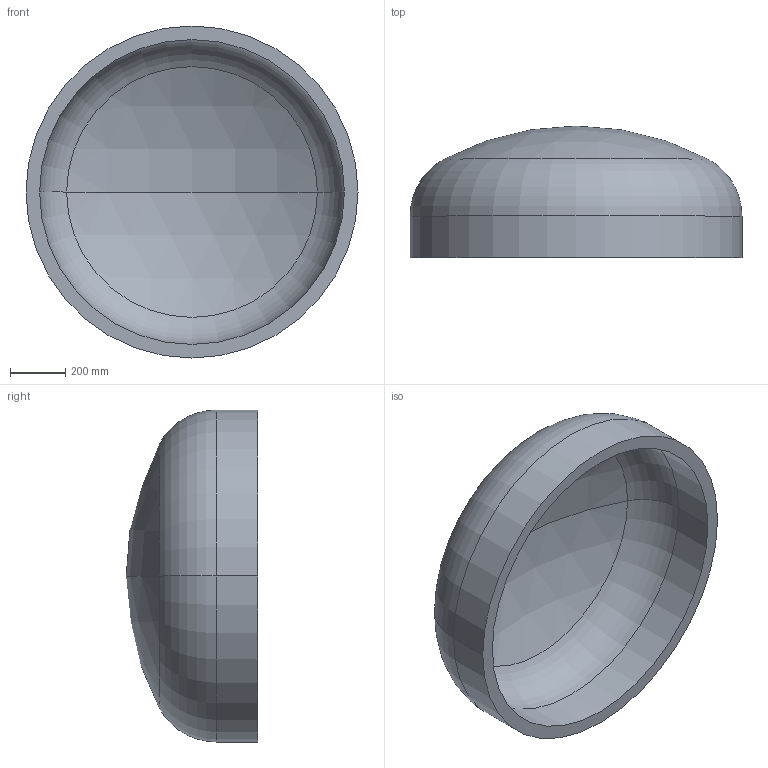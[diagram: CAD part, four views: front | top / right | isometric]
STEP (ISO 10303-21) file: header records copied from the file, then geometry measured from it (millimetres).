
FILE_DESCRIPTION (( 'STEP AP203' ), '1' );
FILE_NAME ('DIN 28013 Korbbogenform_-_Boden DIN 28013 - 1200 x 150 - I - s=49.step', '2016-07-01T09:30:47', ( '' ), ( '' ), 'SwSTEP 2.0', 'SolidWorks 2013', '' );
FILE_SCHEMA (( 'CONFIG_CONTROL_DESIGN' ));
Length unit declared in the file: millimetre
Products named in the file (1): DIN 28013 Korbbogenform_-_Boden DIN 28013 - 1200 x 150 - I - s=49
Bounding box: 1200 x 475.87 x 1200 mm (x, y, z)
Volume: 99393551.8 mm3; surface area: 4239090 mm2
Topology: 1 solids, 1 shells, 13 faces, 24 edges, 14 vertices
Faces by surface type: torus 4, cylinder 4, sphere 4, plane 1
Entity records: 407 total; most frequent: DIRECTION 72, CARTESIAN_POINT 52, ORIENTED_EDGE 48, AXIS2_PLACEMENT_3D 34, EDGE_CURVE 24, CIRCLE 20, EDGE_LOOP 14, VERTEX_POINT 14
